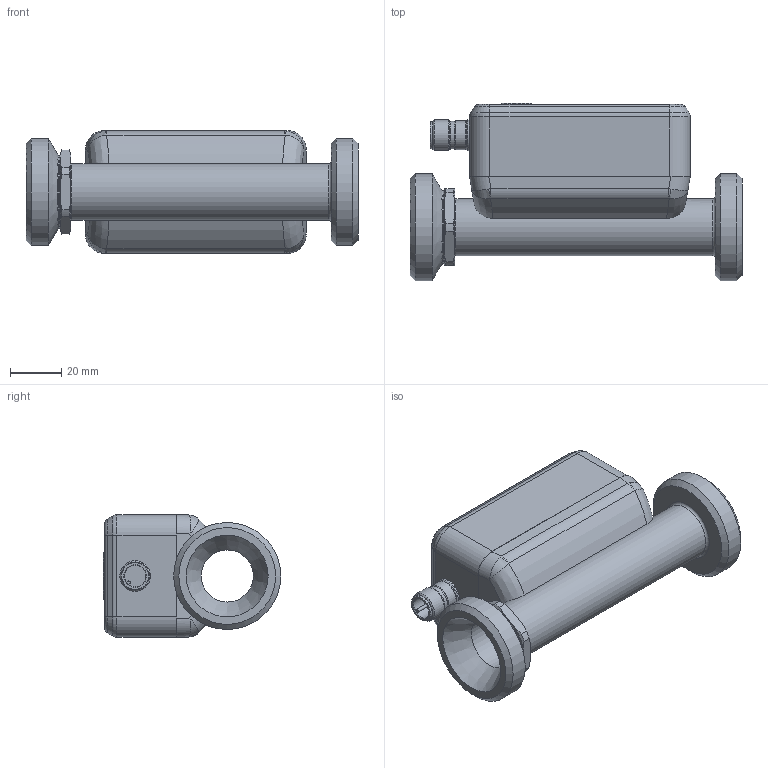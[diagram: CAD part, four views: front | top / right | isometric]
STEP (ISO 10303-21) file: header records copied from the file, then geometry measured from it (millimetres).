
FILE_DESCRIPTION(/* description */ ('STEP AP203'),/* implementation_level */ '2;1');
FILE_NAME(/* name */ 'P_MZ_300_0381',/* time_stamp */ '2023-08-01T11:40:28+02:00',/* author */ ('License CC BY-ND 4.0'),/* organization */ ('CADENAS'),/* preprocessor_version */ 'ST-DEVELOPER v19.3',/* originating_system */ 'PARTsolutions',/* authorisation */ ' ');
FILE_SCHEMA (('CONFIG_CONTROL_DESIGN'));
Length unit declared in the file: millimetre
Products named in the file (1): P_MZ_300_0381
Bounding box: 130 x 69.5 x 48.15 mm (x, y, z)
Volume: 187631.7 mm3; surface area: 38321.3 mm2
Topology: 1 solids, 1 shells, 154 faces, 357 edges, 213 vertices
Faces by surface type: cylinder 46, plane 45, cone 30, torus 21, bspline 12
Full cylindrical faces by diameter (mm): 8.4 x1, 10.55 x1, 10.8 x1, 11.3 x1, 12 x2, 20.426 x1, 22.226 x1, 28.5 x1, 41.91 x2
Entity records: 5410 total; most frequent: CARTESIAN_POINT 1015, DIRECTION 704, ORIENTED_EDGE 626, EDGE_CURVE 313, AXIS2_PLACEMENT_3D 292, VERTEX_POINT 211, EDGE_LOOP 206, FACE_BOUND 206
